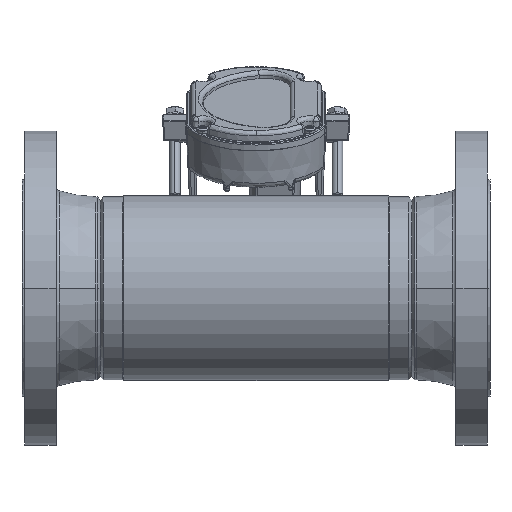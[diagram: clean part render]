
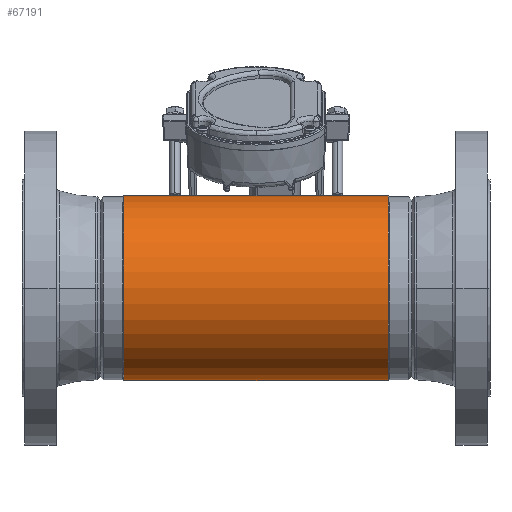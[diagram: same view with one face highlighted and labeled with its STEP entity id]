
A CAD part, left-side view. The second image highlights one B-rep face of the part: STEP entity #67191.
In plain terms, the highlighted cylindrical face has radius 69 mm (diameter 138 mm), a partial arc.
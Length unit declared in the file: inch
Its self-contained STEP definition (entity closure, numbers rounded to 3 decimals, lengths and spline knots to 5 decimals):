
#3253 = LINE ( 'NONE', #74022, #90225 ) ;
#5341 = CARTESIAN_POINT ( 'NONE',  ( 0., 4.68504, -2.71654 ) ) ;
#6412 = CARTESIAN_POINT ( 'NONE',  ( 0., 3.89786, -2.71654 ) ) ;
#9365 = EDGE_CURVE ( 'NONE', #69729, #90084, #16559, .T. ) ;
#9693 = CARTESIAN_POINT ( 'NONE',  ( 0., 3.89786, 0. ) ) ;
#13493 = VERTEX_POINT ( 'NONE', #6412 ) ;
#13883 = ORIENTED_EDGE ( 'NONE', *, *, #89534, .T. ) ;
#16559 = CIRCLE ( 'NONE', #23011, 2.71654 ) ;
#18214 = DIRECTION ( 'NONE',  ( 0., 0., -1. ) ) ;
#20486 = DIRECTION ( 'NONE',  ( 0., -1., 0. ) ) ;
#20565 = CARTESIAN_POINT ( 'NONE',  ( 0., -3.89786, 0. ) ) ;
#23011 = AXIS2_PLACEMENT_3D ( 'NONE', #20565, #99056, #29196 ) ;
#23616 = VECTOR ( 'NONE', #37401, 39.37008 ) ;
#25376 = CARTESIAN_POINT ( 'NONE',  ( 0., 4.68504, 0. ) ) ;
#25887 = FACE_OUTER_BOUND ( 'NONE', #43820, .T. ) ;
#29196 = DIRECTION ( 'NONE',  ( 0., 0., 1. ) ) ;
#32666 = CARTESIAN_POINT ( 'NONE',  ( 0., -3.89786, 2.71654 ) ) ;
#33085 = DIRECTION ( 'NONE',  ( 0., -1., 0. ) ) ;
#36385 = LINE ( 'NONE', #5341, #23616 ) ;
#37401 = DIRECTION ( 'NONE',  ( 0., -1., 0. ) ) ;
#38710 = EDGE_CURVE ( 'NONE', #44342, #13493, #98250, .T. ) ;
#41165 = DIRECTION ( 'NONE',  ( 0., -1., 0. ) ) ;
#41523 = EDGE_CURVE ( 'NONE', #44342, #90084, #3253, .T. ) ;
#43820 = EDGE_LOOP ( 'NONE', ( #49288, #59289, #13883, #64784 ) ) ;
#44342 = VERTEX_POINT ( 'NONE', #82520 ) ;
#49288 = ORIENTED_EDGE ( 'NONE', *, *, #41523, .F. ) ;
#54514 = DIRECTION ( 'NONE',  ( 0., 0., -1. ) ) ;
#57693 = CARTESIAN_POINT ( 'NONE',  ( 0., -3.89786, -2.71654 ) ) ;
#59289 = ORIENTED_EDGE ( 'NONE', *, *, #38710, .T. ) ;
#64784 = ORIENTED_EDGE ( 'NONE', *, *, #9365, .T. ) ;
#65595 = CYLINDRICAL_SURFACE ( 'NONE', #93132, 2.71654 ) ;
#67191 = ADVANCED_FACE ( 'NONE', ( #25887 ), #65595, .T. ) ;
#69729 = VERTEX_POINT ( 'NONE', #57693 ) ;
#74022 = CARTESIAN_POINT ( 'NONE',  ( 0., 4.68504, 2.71654 ) ) ;
#82520 = CARTESIAN_POINT ( 'NONE',  ( 0., 3.89786, 2.71654 ) ) ;
#85200 = AXIS2_PLACEMENT_3D ( 'NONE', #9693, #33085, #54514 ) ;
#89534 = EDGE_CURVE ( 'NONE', #13493, #69729, #36385, .T. ) ;
#90084 = VERTEX_POINT ( 'NONE', #32666 ) ;
#90225 = VECTOR ( 'NONE', #20486, 39.37008 ) ;
#93132 = AXIS2_PLACEMENT_3D ( 'NONE', #25376, #41165, #18214 ) ;
#98250 = CIRCLE ( 'NONE', #85200, 2.71654 ) ;
#99056 = DIRECTION ( 'NONE',  ( 0., 1., 0. ) ) ;
